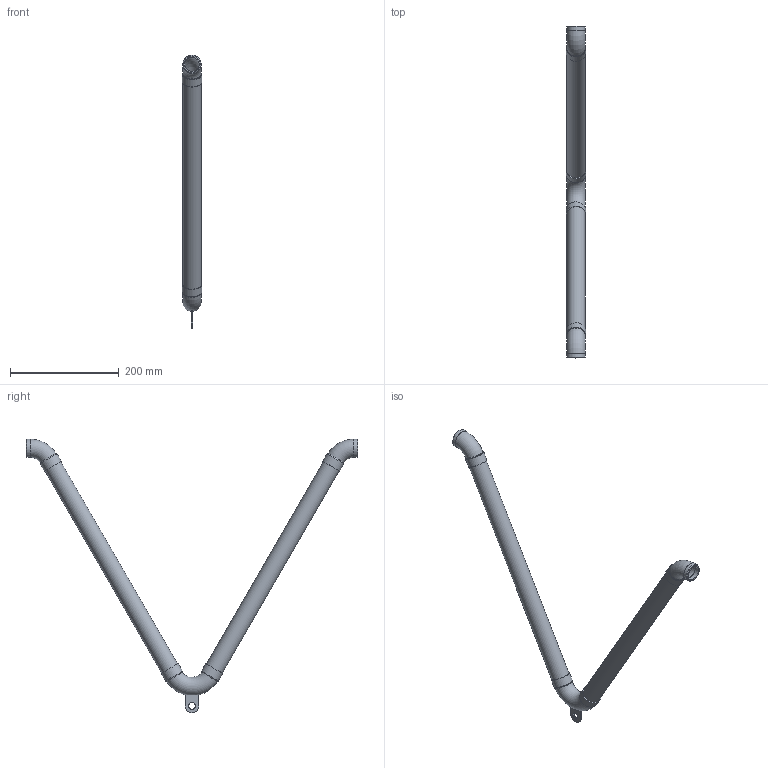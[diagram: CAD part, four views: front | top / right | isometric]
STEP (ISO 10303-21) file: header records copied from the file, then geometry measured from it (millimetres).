
FILE_DESCRIPTION(/* description */ (''),/* implementation_level */ '2;1');
FILE_NAME(/* name */ 'C:\001_Work\Designs\CSAVWN\CSAVWN-1x24.stp',/* time_stamp */ '2016-06-02T18:46:49-04:00',/* author */ ('rramoutar'),/* organization */ ('Mason Industries Inc.'),/* preprocessor_version */ 'ST-DEVELOPER v15.6',/* originating_system */ 'Autodesk Inventor 2015',/* authorisation */ '');
FILE_SCHEMA (('CONFIG_CONTROL_DESIGN'));
Length unit declared in the file: inch
Products named in the file (1): CSAVWN-1x24
Bounding box: 35.98 x 609.6 x 502.57 mm (x, y, z)
Volume: 96747.8 mm3; surface area: 247552.6 mm2
Topology: 12 solids, 12 shells, 61 faces, 109 edges, 72 vertices
Faces by surface type: plane 27, cylinder 22, torus 10, cone 2
Full cylindrical faces by diameter (mm): 12.7 x1, 26.645 x2, 33.02 x2, 33.337 x4, 33.63 x6, 33.636 x2, 36.011 x4
Entity records: 1413 total; most frequent: DIRECTION 250, CARTESIAN_POINT 194, ORIENTED_EDGE 136, AXIS2_PLACEMENT_3D 120, EDGE_LOOP 118, STYLED_ITEM 73, EDGE_CURVE 68, VERTEX_POINT 64
